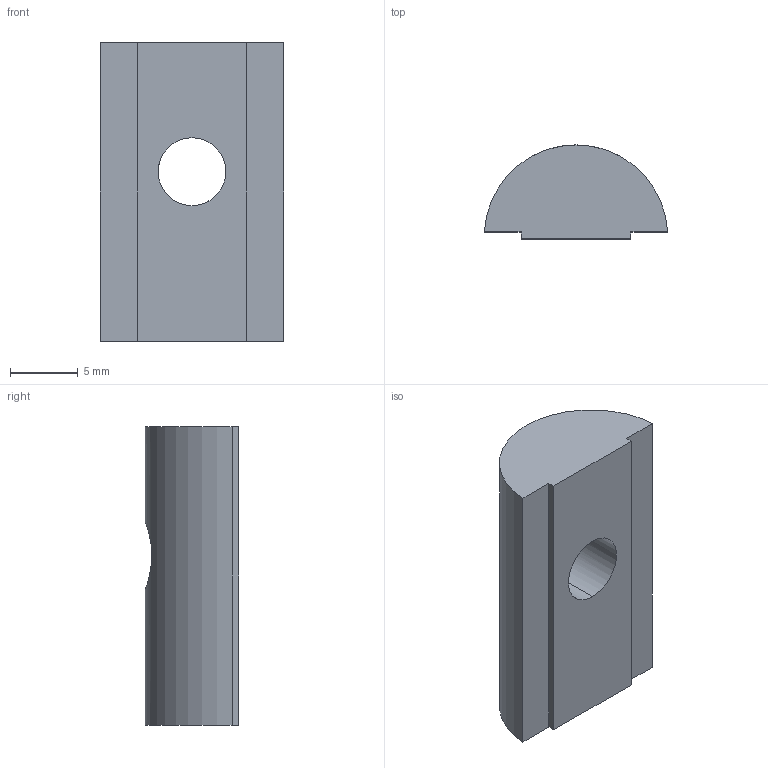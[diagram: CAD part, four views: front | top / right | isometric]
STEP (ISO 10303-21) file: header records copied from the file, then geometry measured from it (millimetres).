
FILE_DESCRIPTION (( 'STEP AP203' ), '1' );
FILE_NAME ('TCAN 6 Steel T-slot block M6 22mm (01-06-2021).STEP', '2021-06-01T06:39:05', ( '' ), ( '' ), 'SwSTEP 2.0', 'SolidWorks 2020', '' );
FILE_SCHEMA (( 'CONFIG_CONTROL_DESIGN' ));
Length unit declared in the file: millimetre
Products named in the file (1): TCAN 6 Steel T-slot block M6 22mm (01-06-2021)
Bounding box: 13.5 x 6.9 x 22 mm (x, y, z)
Volume: 1428 mm3; surface area: 977.3 mm2
Topology: 1 solids, 1 shells, 10 faces, 24 edges, 16 vertices
Faces by surface type: plane 7, cylinder 3
Entity records: 433 total; most frequent: CARTESIAN_POINT 115, ORIENTED_EDGE 48, DIRECTION 48, EDGE_CURVE 24, VECTOR 18, LINE 18, VERTEX_POINT 16, AXIS2_PLACEMENT_3D 15
